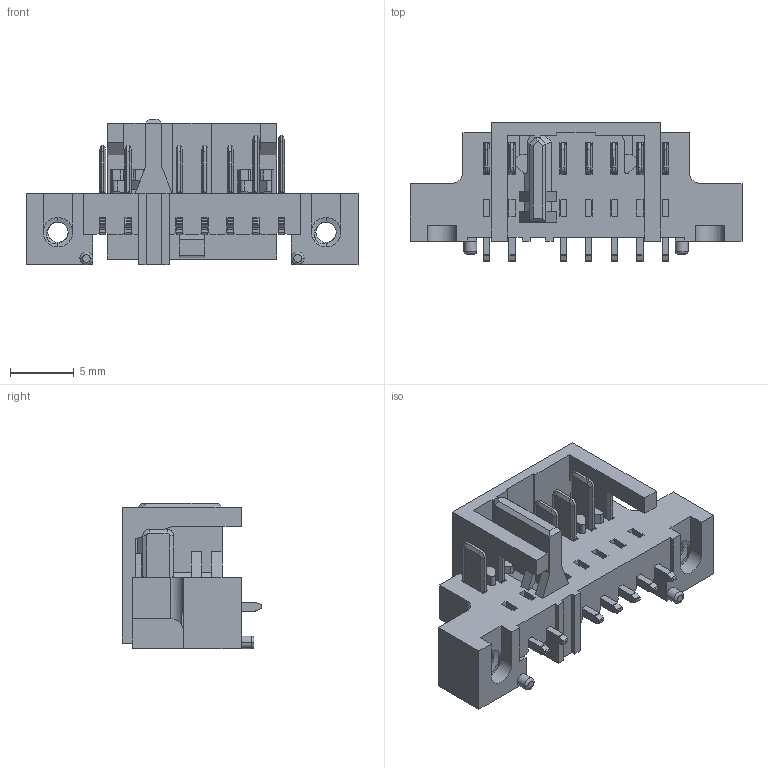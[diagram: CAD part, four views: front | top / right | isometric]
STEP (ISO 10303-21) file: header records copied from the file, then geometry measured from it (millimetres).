
FILE_DESCRIPTION((''),'2;1');
FILE_NAME('53032_ASM_ASM','2012-12-12T',('Rd_02'),(''),'PRO/ENGINEER BY PARAMETRIC TECHNOLOGY CORPORATION, 2009360','PRO/ENGINEER BY PARAMETRIC TECHNOLOGY CORPORATION, 2009360','');
FILE_SCHEMA(('CONFIG_CONTROL_DESIGN'));
Length unit declared in the file: millimetre
Products named in the file (4): 53032_NEW_ASM; COVER_1; 53032_NEW_ASM_ASM_ASM; 53032_ASM_ASM
Assembly tree (3 placements, depth 3):
  53032_ASM_ASM
    53032_NEW_ASM_ASM_ASM
      53032_NEW_ASM
      COVER_1
Bounding box: 26 x 10.9 x 11.4 mm (x, y, z)
Volume: 915 mm3; surface area: 2177.5 mm2
Topology: 2 solids, 2 shells, 809 faces, 2467 edges, 1609 vertices
Faces by surface type: plane 514, cylinder 217, cone 36, extrusion 20, bspline 18, torus 4
Entity records: 29761 total; most frequent: CARTESIAN_POINT 7684, ORIENTED_EDGE 4866, DIRECTION 4211, EDGE_CURVE 2433, VECTOR 1859, LINE 1839, VERTEX_POINT 1575, AXIS2_PLACEMENT_3D 1176
